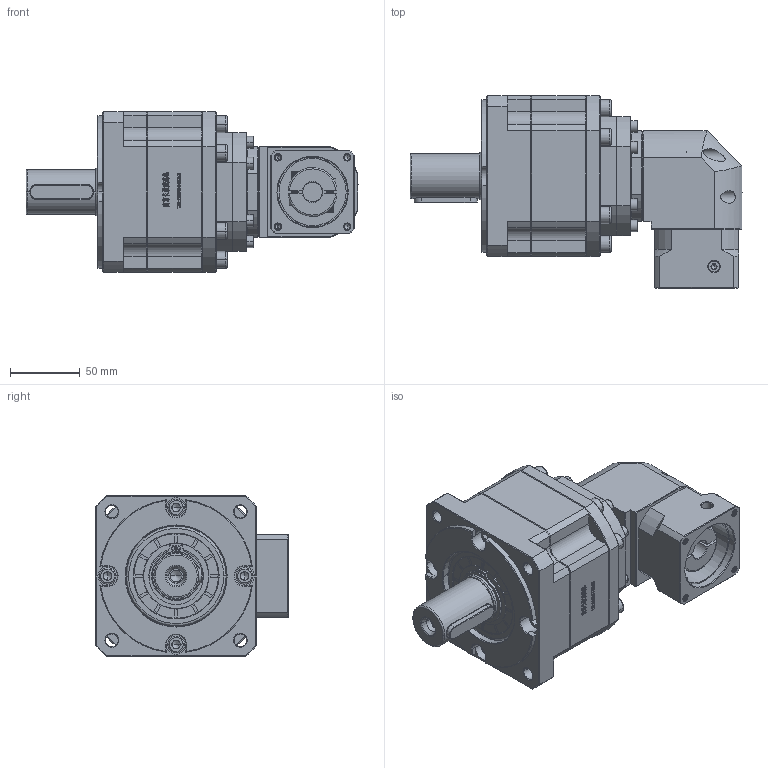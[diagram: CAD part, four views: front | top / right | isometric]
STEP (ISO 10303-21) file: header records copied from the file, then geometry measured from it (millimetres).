
FILE_DESCRIPTION (( 'STEP AP214' ), '1' );
FILE_NAME ('ZB115A-D32-L3-14-50-70-M5.step', '2023-03-03T08:04:06', ( '' ), ( 'Microsoft' ), 'SwSTEP 2.0', 'SolidWorks 2016', '' );
FILE_SCHEMA (( 'AUTOMOTIVE_DESIGN' ));
Length unit declared in the file: millimetre
Products named in the file (1): ZB115A-D32-L3-14-50-70-M5
Bounding box: 237.5 x 137.7 x 115 mm (x, y, z)
Volume: 1566882.4 mm3; surface area: 146153.5 mm2
Topology: 6 solids, 6 shells, 3239 faces, 8602 edges, 5525 vertices
Faces by surface type: plane 1719, bspline 637, cylinder 485, cone 390, torus 8
Entity records: 170939 total; most frequent: CARTESIAN_POINT 59742, ORIENTED_EDGE 17080, DIRECTION 13273, EDGE_CURVE 8540, VECTOR 5681, LINE 5681, VERTEX_POINT 5525, AXIS2_PLACEMENT_3D 3796
